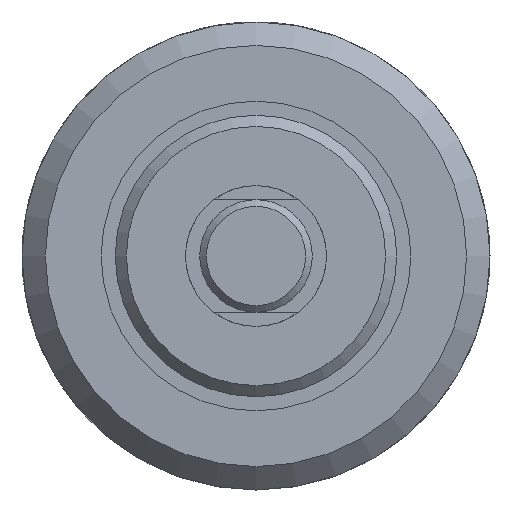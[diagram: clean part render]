
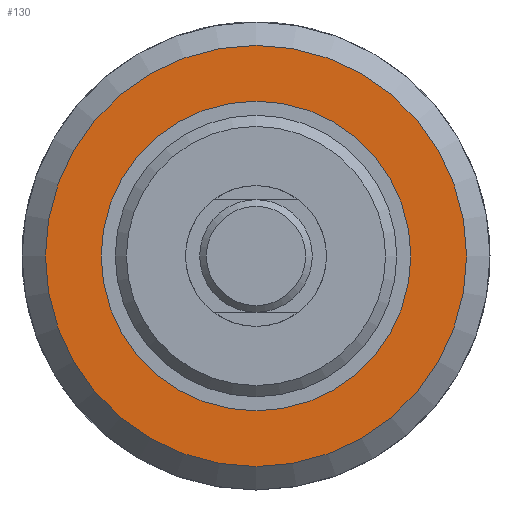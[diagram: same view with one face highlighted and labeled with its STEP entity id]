
A CAD part, left-side view. The second image highlights one B-rep face of the part: STEP entity #130.
In plain terms, the highlighted planar face has unit normal (-1, 0, 0).
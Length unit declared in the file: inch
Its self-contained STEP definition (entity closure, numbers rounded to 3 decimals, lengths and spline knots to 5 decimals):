
#130 = ADVANCED_FACE( '', ( #277, #278 ), #279, .F. );
#277 = FACE_OUTER_BOUND( '', #471, .T. );
#278 = FACE_BOUND( '', #472, .T. );
#279 = PLANE( '', #473 );
#471 = EDGE_LOOP( '', ( #679 ) );
#472 = EDGE_LOOP( '', ( #680 ) );
#473 = AXIS2_PLACEMENT_3D( '', #681, #682, #683 );
#679 = ORIENTED_EDGE( '', *, *, #977, .F. );
#680 = ORIENTED_EDGE( '', *, *, #967, .T. );
#681 = CARTESIAN_POINT( '', ( 0.813, 0.6875, 0. ) );
#682 = DIRECTION( '', ( 1., 0., 0. ) );
#683 = DIRECTION( '', ( 0., 0., -1. ) );
#967 = EDGE_CURVE( '', #1097, #1097, #1098, .T. );
#977 = EDGE_CURVE( '', #1114, #1114, #1115, .T. );
#1097 = VERTEX_POINT( '', #1269 );
#1098 = CIRCLE( '', #1270, 0.6875 );
#1114 = VERTEX_POINT( '', #1288 );
#1115 = CIRCLE( '', #1289, 0.9351 );
#1269 = CARTESIAN_POINT( '', ( 0.813, 0., -0.6875 ) );
#1270 = AXIS2_PLACEMENT_3D( '', #1552, #1553, #1554 );
#1288 = CARTESIAN_POINT( '', ( 0.813, 0., -0.9351 ) );
#1289 = AXIS2_PLACEMENT_3D( '', #1569, #1570, #1571 );
#1552 = CARTESIAN_POINT( '', ( 0.813, 0., 0. ) );
#1553 = DIRECTION( '', ( 1., 0., 0. ) );
#1554 = DIRECTION( '', ( 0., 0., -1. ) );
#1569 = CARTESIAN_POINT( '', ( 0.813, 0., 0. ) );
#1570 = DIRECTION( '', ( 1., 0., 0. ) );
#1571 = DIRECTION( '', ( 0., 0., -1. ) );
